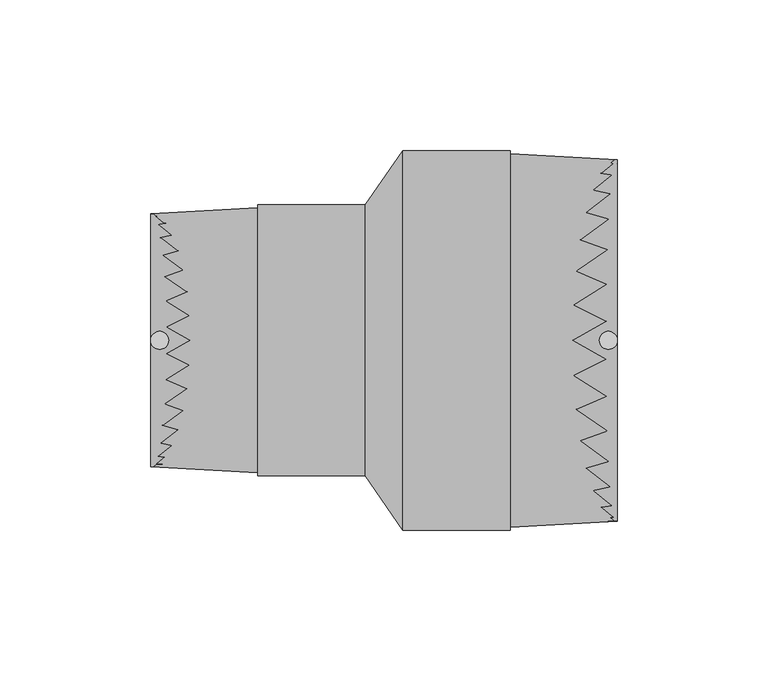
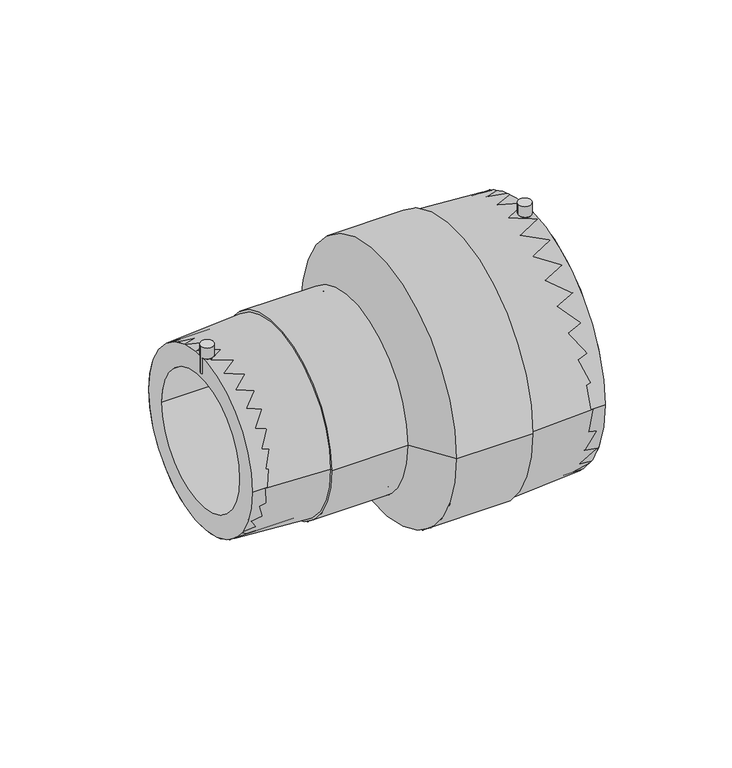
"""IFC4 building model written with IfcOpenShell, lengths in millimetres: pipe fitting geometry, EGB_VASEN_ PPR_Manguito reductor electrosoldable WXRD110 : Manguito reductor electrosoldable WXRD110."""

from ifc_helpers import new_model, si_unit, point, frame, frame_2d, origin, origin_2d, place, context, project, spatial, polyline, circle_curve, trimmed, segment, composite_curve, outline, extrude, source, transform, mapped, element, save
from ifc_brep_helpers import plane_surface, cylinder_surface, revolved_surface, advanced_brep


def pipe_fitting_fafe3424(model_context):
    return source(origin(), model_context, "Body", "SolidModel", [
        extrude(outline(composite_curve([segment(trimmed(circle_curve(frame_2d((74.5, 0.0)), 3.0), [point((71.5, 0.0))], [point((77.5, 0.0))], False, "CARTESIAN"), True, "CONTINUOUS"), segment(trimmed(circle_curve(frame_2d((74.5, 0.0)), 3.0), [point((77.5, 0.0))], [point((71.5, 0.0))], False, "CARTESIAN"), True, "CONTINUOUS")], self_intersect=False)), frame((0.0, 0.0, 47.0), z_axis=(0.0, 0.0, 1.0), x_axis=(1.0, 0.0, 0.0)), (0.0, 0.0, 1.0), 18.0),
        extrude(outline(composite_curve([segment(trimmed(circle_curve(frame_2d((-74.5, 0.0)), 3.0), [point((-77.5, 0.0))], [point((-71.5, 0.0))], False, "CARTESIAN"), True, "CONTINUOUS"), segment(trimmed(circle_curve(frame_2d((-74.5, 0.0)), 3.0), [point((-71.5, 0.0))], [point((-77.5, 0.0))], False, "CARTESIAN"), True, "CONTINUOUS")], self_intersect=False)), frame((0.0, 0.0, 33.5), z_axis=(0.0, 0.0, 1.0), x_axis=(1.0, 0.0, 0.0)), (0.0, 0.0, 1.0), 13.5),
        extrude(outline(composite_curve([segment(trimmed(circle_curve(origin_2d(), 60.0), [point((-60.0, 0.0))], [point((60.0, 0.0))], False, "CARTESIAN"), True, "CONTINUOUS"), segment(trimmed(circle_curve(origin_2d(), 60.0), [point((60.0, 0.0))], [point((-60.0, 0.0))], False, "CARTESIAN"), True, "CONTINUOUS")], self_intersect=False), holes=[composite_curve([segment(trimmed(circle_curve(origin_2d(), 45.0), [point((-45.0, 0.0))], [point((45.0, 0.0))], True, "CARTESIAN"), True, "CONTINUOUS"), segment(trimmed(circle_curve(origin_2d(), 45.0), [point((45.0, 0.0))], [point((-45.0, 0.0))], True, "CARTESIAN"), True, "CONTINUOUS")], self_intersect=False)]), frame((6.2, 0.0, 0.0), z_axis=(1.0, 0.0, 0.0), x_axis=(0.0, 1.0, 0.0)), (0.0, 0.0, 1.0), 71.3),
        extrude(outline(composite_curve([segment(trimmed(circle_curve(origin_2d(), 42.0), [point((-42.0, 0.0))], [point((42.0, 0.0))], False, "CARTESIAN"), True, "CONTINUOUS"), segment(trimmed(circle_curve(origin_2d(), 42.0), [point((42.0, 0.0))], [point((-42.0, 0.0))], False, "CARTESIAN"), True, "CONTINUOUS")], self_intersect=False), holes=[composite_curve([segment(trimmed(circle_curve(origin_2d(), 31.5), [point((-31.5, 0.0))], [point((31.5, 0.0))], True, "CARTESIAN"), True, "CONTINUOUS"), segment(trimmed(circle_curve(origin_2d(), 31.5), [point((31.5, 0.0))], [point((-31.5, 0.0))], True, "CARTESIAN"), True, "CONTINUOUS")], self_intersect=False)]), frame((-77.5, 0.0, 0.0), z_axis=(1.0, 0.0, 0.0), x_axis=(0.0, 1.0, 0.0)), (0.0, 0.0, 1.0), 71.3),
        advanced_brep(
        [(6.2, -60.0, 0.0), (6.2, 60.0, 0.0), (-6.2, -42.0, 0.0), (-6.2, 42.0, 0.0)],
        [
            (0, 1, circle_curve(frame((6.2, 0.0, 0.0), z_axis=(1.0, 0.0, 0.0), x_axis=(0.0, -1.0, 0.0)), 60.0)),
            (1, 0, circle_curve(frame((6.2, 0.0, 0.0), z_axis=(1.0, 0.0, 0.0), x_axis=(0.0, 1.0, 0.0)), 60.0)),
            (2, 3, circle_curve(frame((-6.2, 0.0, 0.0), z_axis=(-1.0, 0.0, 0.0), x_axis=(0.0, 1.0, 0.0)), 42.0)),
            (3, 2, circle_curve(frame((-6.2, 0.0, 0.0), z_axis=(-1.0, 0.0, 0.0), x_axis=(0.0, -1.0, 0.0)), 42.0)),
            (3, 1),
            (0, 2),
        ],
        [
            plane_surface(frame((6.2, 0.0, 0.0), z_axis=(1.0, 0.0, 0.0), x_axis=(0.0, 0.0, -1.0))),
            plane_surface(frame((-6.2, 0.0, 0.0), z_axis=(-1.0, 0.0, 0.0), x_axis=(0.0, 0.0, -1.0))),
            revolved_surface(polyline([(-6.199999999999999, 41.99999998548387, 0.0), (6.200000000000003, 60.0, 0.0)]), (-35.1333333, 0.0, 0.0), (1.0, 0.0, 0.0)),
            revolved_surface(polyline([(-6.199999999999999, -41.99999998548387, 0.0), (6.200000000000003, -60.0, 0.0)]), (-35.1333333, 0.0, 0.0), (1.0, 0.0, 0.0)),
        ],
        [
            (0, [[1, 2]]),
            (1, [[3, 4]]),
            (2, [[-4, 5, -1, 6]]),
            (3, [[-3, -6, -2, -5]]),
        ],
    ),
        advanced_brep(
        [(6.2, -60.0, 0.0), (6.2, 60.0, 0.0), (-6.2, 42.0, 0.0), (-6.2, -42.0, 0.0), (77.5, -60.0, 0.0), (77.5, 60.0, 0.0), (41.85, -62.0, 0.0), (41.85, 62.0, 0.0), (41.85, -63.0, 0.0), (41.85, 63.0, 0.0), (6.2, -63.0, 0.0), (6.2, 63.0, 0.0), (-6.2, -45.0, 0.0), (-6.2, 45.0, 0.0), (-41.85, -45.0, 0.0), (-41.85, 45.0, 0.0), (-41.85, -44.0, 0.0), (-41.85, 44.0, 0.0), (-77.5, -42.0, 0.0), (-77.5, 42.0, 0.0)],
        [
            (0, 1, circle_curve(frame((6.2, 0.0, 0.0), z_axis=(1.0, 0.0, 0.0), x_axis=(0.0, 1.0, 0.0)), 60.0)),
            (1, 2),
            (2, 3, circle_curve(frame((-6.2, 0.0, 0.0), z_axis=(-1.0, 0.0, 0.0), x_axis=(0.0, 1.0, 0.0)), 42.0)),
            (3, 0),
            (1, 0, circle_curve(frame((6.2, 0.0, 0.0), z_axis=(1.0, 0.0, 0.0), x_axis=(0.0, 1.0, 0.0)), 60.0)),
            (3, 2, circle_curve(frame((-6.2, 0.0, 0.0), z_axis=(-1.0, 0.0, 0.0), x_axis=(0.0, 1.0, 0.0)), 42.0)),
            (4, 5, circle_curve(frame((77.5, 0.0, 0.0), z_axis=(1.0, 0.0, 0.0), x_axis=(0.0, 1.0, 0.0)), 60.0)),
            (5, 1),
            (0, 4),
            (5, 4, circle_curve(frame((77.5, 0.0, 0.0), z_axis=(1.0, 0.0, 0.0), x_axis=(0.0, 1.0, 0.0)), 60.0)),
            (6, 7, circle_curve(frame((41.85, 0.0, 0.0), z_axis=(1.0, 0.0, 0.0), x_axis=(0.0, 1.0, 0.0)), 62.0)),
            (7, 5),
            (4, 6),
            (7, 6, circle_curve(frame((41.85, 0.0, 0.0), z_axis=(1.0, 0.0, 0.0), x_axis=(0.0, 1.0, 0.0)), 62.0)),
            (8, 9, circle_curve(frame((41.85, 0.0, 0.0), z_axis=(1.0, 0.0, 0.0), x_axis=(0.0, 1.0, 0.0)), 63.0)),
            (9, 7),
            (6, 8),
            (9, 8, circle_curve(frame((41.85, 0.0, 0.0), z_axis=(1.0, 0.0, 0.0), x_axis=(0.0, 1.0, 0.0)), 63.0)),
            (10, 11, circle_curve(frame((6.2, 0.0, 0.0), z_axis=(1.0, 0.0, 0.0), x_axis=(0.0, 1.0, 0.0)), 63.0)),
            (11, 9),
            (8, 10),
            (11, 10, circle_curve(frame((6.2, 0.0, 0.0), z_axis=(1.0, 0.0, 0.0), x_axis=(0.0, 1.0, 0.0)), 63.0)),
            (12, 13, circle_curve(frame((-6.2, 0.0, 0.0), z_axis=(1.0, 0.0, 0.0), x_axis=(0.0, 1.0, 0.0)), 45.0)),
            (13, 11),
            (10, 12),
            (13, 12, circle_curve(frame((-6.2, 0.0, 0.0), z_axis=(1.0, 0.0, 0.0), x_axis=(0.0, 1.0, 0.0)), 45.0)),
            (14, 15, circle_curve(frame((-41.85, 0.0, 0.0), z_axis=(1.0, 0.0, 0.0), x_axis=(0.0, 1.0, 0.0)), 45.0)),
            (15, 13),
            (12, 14),
            (15, 14, circle_curve(frame((-41.85, 0.0, 0.0), z_axis=(1.0, 0.0, 0.0), x_axis=(0.0, 1.0, 0.0)), 45.0)),
            (16, 17, circle_curve(frame((-41.85, 0.0, 0.0), z_axis=(1.0, 0.0, 0.0), x_axis=(0.0, 1.0, 0.0)), 44.0)),
            (17, 15),
            (14, 16),
            (17, 16, circle_curve(frame((-41.85, 0.0, 0.0), z_axis=(1.0, 0.0, 0.0), x_axis=(0.0, 1.0, 0.0)), 44.0)),
            (18, 19, circle_curve(frame((-77.5, 0.0, 0.0), z_axis=(1.0, 0.0, 0.0), x_axis=(0.0, 1.0, 0.0)), 42.0)),
            (19, 17),
            (16, 18),
            (19, 18, circle_curve(frame((-77.5, 0.0, 0.0), z_axis=(1.0, 0.0, 0.0), x_axis=(0.0, 1.0, 0.0)), 42.0)),
            (2, 19),
            (18, 3),
        ],
        [
            revolved_surface(polyline([(-6.2, 42.0, 0.0), (6.2, 60.0, 0.0)]), (-112.5, 0.0, 0.0), (-1.0, 0.0, 0.0)),
            revolved_surface(polyline([(6.200000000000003, 60.0, 0.0), (77.5, 60.0, 0.0)]), (-112.5, 0.0, 0.0), (-1.0, 0.0, 0.0)),
            revolved_surface(polyline([(77.5, 60.0, 0.0), (41.85, 62.0, 0.0)]), (-112.5, 0.0, 0.0), (-1.0, 0.0, 0.0)),
            plane_surface(frame((41.85, 0.0, 0.0), z_axis=(1.0, 0.0, 0.0), x_axis=(0.0, 1.0, 0.0))),
            cylinder_surface(frame((-112.5, 0.0, 0.0), z_axis=(-1.0, 0.0, 0.0), x_axis=(0.0, 1.0, 0.0)), 63.0),
            revolved_surface(polyline([(6.2, 63.0, 0.0), (-6.2, 45.0, 0.0)]), (-112.5, 0.0, 0.0), (-1.0, 0.0, 0.0)),
            cylinder_surface(frame((-112.5, 0.0, 0.0), z_axis=(-1.0, 0.0, 0.0), x_axis=(0.0, 1.0, 0.0)), 45.0),
            plane_surface(frame((-41.85, 0.0, 0.0), z_axis=(-1.0, 0.0, 0.0), x_axis=(0.0, 1.0, 0.0))),
            revolved_surface(polyline([(-41.85, 44.0, 0.0), (-77.5, 42.0, 0.0)]), (-112.5, 0.0, 0.0), (-1.0, 0.0, 0.0)),
            revolved_surface(polyline([(-77.5, 42.0, 0.0), (-6.200000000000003, 42.0, 0.0)]), (-112.5, 0.0, 0.0), (-1.0, 0.0, 0.0)),
        ],
        [
            (0, [[1, 2, 3, 4]]),
            (0, [[5, -4, 6, -2]]),
            (1, [[7, 8, -1, 9]]),
            (1, [[10, -9, -5, -8]]),
            (2, [[11, 12, -7, 13]]),
            (2, [[14, -13, -10, -12]]),
            (3, [[15, 16, -11, 17]]),
            (3, [[18, -17, -14, -16]]),
            (4, [[19, 20, -15, 21]]),
            (4, [[22, -21, -18, -20]]),
            (5, [[23, 24, -19, 25]]),
            (5, [[26, -25, -22, -24]]),
            (6, [[27, 28, -23, 29]]),
            (6, [[30, -29, -26, -28]]),
            (7, [[31, 32, -27, 33]]),
            (7, [[34, -33, -30, -32]]),
            (8, [[35, 36, -31, 37]]),
            (8, [[38, -37, -34, -36]]),
            (9, [[-3, 39, -35, 40]]),
            (9, [[-6, -40, -38, -39]]),
        ],
    ),
    ])


if __name__ == "__main__":
    model = new_model("IFC4")
    model_context = context("Model", 3, world=origin())
    ifc_project = project(units=[si_unit("LENGTHUNIT", "METRE", prefix="MILLI")], contexts=[model_context])
    site = spatial("IfcSite", under=ifc_project)
    building = spatial("IfcBuilding", under=site)
    placement = place(None, origin())
    pipe_fitting_shape = pipe_fitting_fafe3424(model_context)
    element("IfcPipeFitting", 1, ObjectType="EGB_VASEN_ PPR_Manguito reductor electrosoldable WXRD110 : Manguito reductor electrosoldable WXRD110", at=placement, inside=building, context=model_context, shape_type="MappedRepresentation", body=[
        mapped(pipe_fitting_shape, transform((0.0, 0.0, 0.0), x_axis=(1.0, 0.0, 0.0), y_axis=(0.0, 1.0, 0.0), z_axis=(0.0, 0.0, 1.0))),
    ])
    save(model, "model.ifc")
